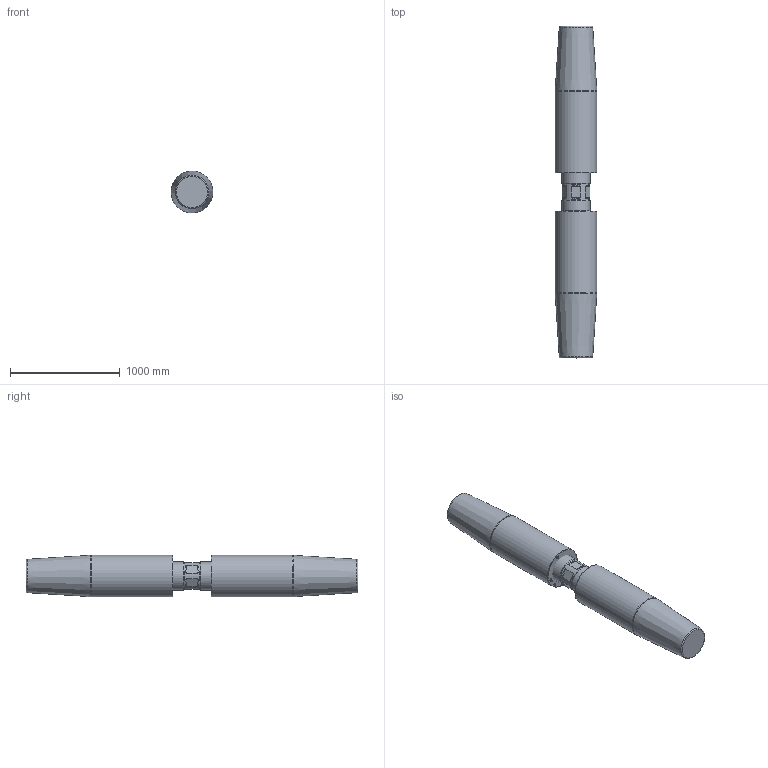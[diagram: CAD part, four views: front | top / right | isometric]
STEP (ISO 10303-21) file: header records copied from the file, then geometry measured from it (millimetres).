
FILE_DESCRIPTION(/* description */ (''),/* implementation_level */ '2;1');
FILE_NAME(/* name */ 'D:\Clienti\Redaelli (inventor)\CYA\STEP\Arrangement\CYA132 52 061 2.stp',/* time_stamp */ '2021-05-09T10:45:25+02:00',/* author */ ('fabri'),/* organization */ (''),/* preprocessor_version */ 'ST-DEVELOPER v16.13',/* originating_system */ 'Autodesk Inventor 2018',/* authorisation */ '');
FILE_SCHEMA (('AUTOMOTIVE_DESIGN { 1 0 10303 214 3 1 1 }'));
Length unit declared in the file: millimetre
Products named in the file (4): CYA012-54-062-0; TBF012-12-012-1; TBF012-13-012-0; TBF012-13-012-0_1
Assembly tree (3 placements, depth 2):
  CYA012-54-062-0
    TBF012-12-012-1
    TBF012-13-012-0
    TBF012-13-012-0_1
Bounding box: 379.77 x 3018 x 379.77 mm (x, y, z)
Volume: 345796997.1 mm3; surface area: 4605939.8 mm2
Topology: 3 solids, 3 shells, 523 faces, 1425 edges, 948 vertices
Faces by surface type: bspline 249, plane 231, cylinder 25, cone 14, torus 4
Full cylindrical faces by diameter (mm): 17.294 x2, 23.752 x6, 254 x1, 260 x2, 380 x2
Entity records: 18037 total; most frequent: CARTESIAN_POINT 6579, ORIENTED_EDGE 2772, DIRECTION 1468, EDGE_CURVE 1386, VERTEX_POINT 940, LINE 826, VECTOR 826, EDGE_LOOP 594
